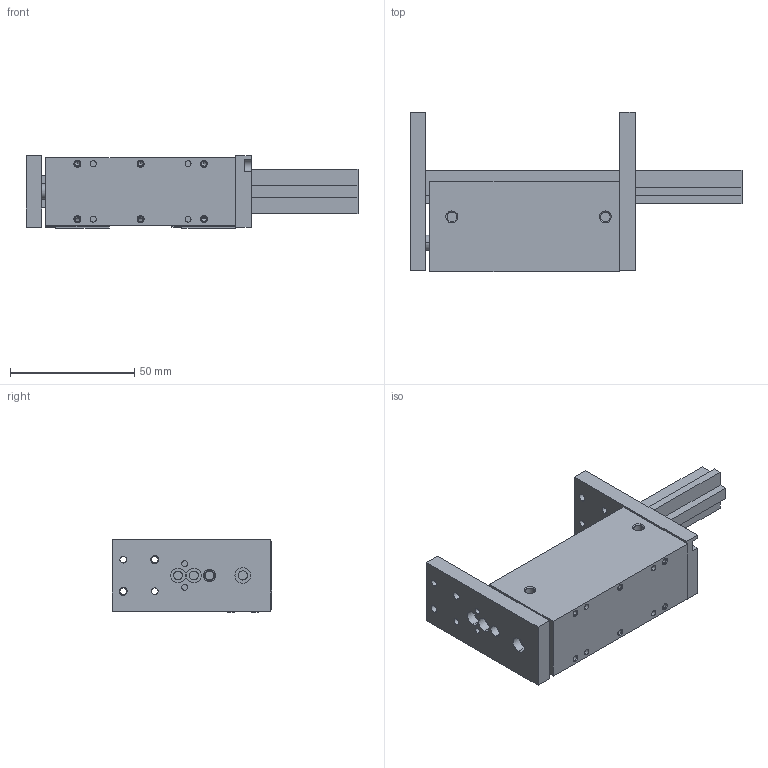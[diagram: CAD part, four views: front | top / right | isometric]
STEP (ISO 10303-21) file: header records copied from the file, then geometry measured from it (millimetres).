
FILE_DESCRIPTION (( 'STEP AP203' ), '1' );
FILE_NAME ('AGPS-2-4 CLOSED in IN.STEP', '2014-11-21T20:05:23', ( 'setup' ), ( '' ), 'SwSTEP 2.0', 'SolidWorks 2013', '' );
FILE_SCHEMA (( 'CONFIG_CONTROL_DESIGN' ));
Length unit declared in the file: inch
Products named in the file (8): AGPS-2-4 END PLATE B; AGPS-2-4 CLOSED in IN; AGPS-2-4 BODY; AGPS-2-4 CUSHION; AGPS-2-4 RAIL; AGPS-2-4 PROD; AGPS-2-4 SENSOR; AGPS-2-4 END PLATE A
Assembly tree (8 placements, depth 2):
  AGPS-2-4 CLOSED in IN
    AGPS-2-4 BODY
    AGPS-2-4 CUSHION
    AGPS-2-4 RAIL
    AGPS-2-4 PROD
    AGPS-2-4 SENSOR  x2
    AGPS-2-4 END PLATE A
    AGPS-2-4 END PLATE B
Bounding box: 133.35 x 64.16 x 29 mm (x, y, z)
Volume: 102392 mm3; surface area: 39190.9 mm2
Topology: 8 solids, 8 shells, 332 faces, 796 edges, 502 vertices
Faces by surface type: cylinder 147, plane 127, cone 56, torus 2
Entity records: 9921 total; most frequent: CARTESIAN_POINT 1653, DIRECTION 1643, ORIENTED_EDGE 1434, EDGE_CURVE 717, AXIS2_PLACEMENT_3D 624, VERTEX_POINT 462, LINE 395, VECTOR 395
